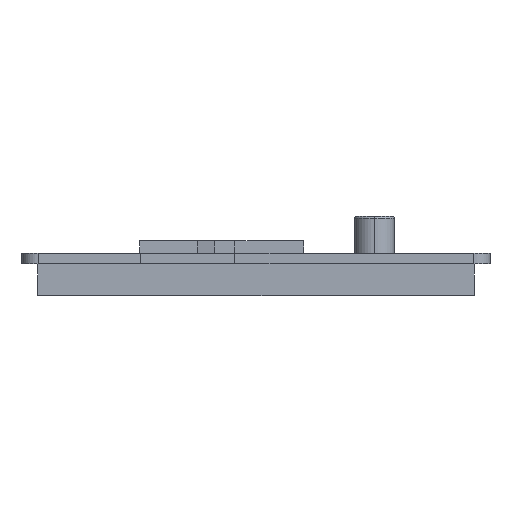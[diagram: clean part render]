
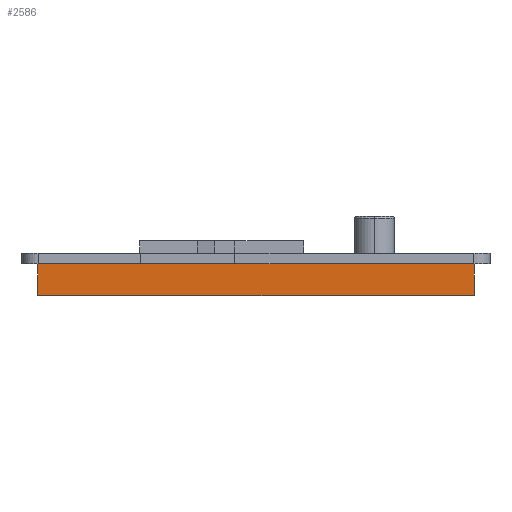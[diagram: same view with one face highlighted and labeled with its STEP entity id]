
A CAD part, left-side view. The second image highlights one B-rep face of the part: STEP entity #2586.
In plain terms, the highlighted planar face has unit normal (-1, 0, 0).
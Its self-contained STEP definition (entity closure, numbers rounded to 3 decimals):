
#541=DIRECTION('',(0.,1.,0.));
#542=VECTOR('',#541,10.018);
#543=CARTESIAN_POINT('',(83.402,267.858,-1.6));
#544=LINE('',#543,#542);
#557=DIRECTION('',(0.,1.,0.));
#558=VECTOR('',#557,16.51);
#559=CARTESIAN_POINT('',(83.402,282.956,-1.6));
#560=LINE('',#559,#558);
#573=DIRECTION('',(0.,1.,0.));
#574=VECTOR('',#573,16.51);
#575=CARTESIAN_POINT('',(83.402,304.546,-1.6));
#576=LINE('',#575,#574);
#589=DIRECTION('',(0.,1.,0.));
#590=VECTOR('',#589,10.022);
#591=CARTESIAN_POINT('',(83.402,326.136,-1.6));
#592=LINE('',#591,#590);
#805=DIRECTION('',(0.,0.,-1.));
#806=VECTOR('',#805,5.);
#807=CARTESIAN_POINT('',(83.402,267.858,-1.6));
#808=LINE('',#807,#806);
#817=DIRECTION('',(0.,0.,-1.));
#818=VECTOR('',#817,5.);
#819=CARTESIAN_POINT('',(83.402,336.158,-1.6));
#820=LINE('',#819,#818);
#821=DIRECTION('',(0.,1.,0.));
#822=VECTOR('',#821,68.3);
#823=CARTESIAN_POINT('',(83.402,267.858,-6.6));
#824=LINE('',#823,#822);
#897=DIRECTION('',(0.,1.,0.));
#898=VECTOR('',#897,5.08);
#899=CARTESIAN_POINT('',(83.402,321.056,-1.6));
#900=LINE('',#899,#898);
#901=DIRECTION('',(0.,1.,0.));
#902=VECTOR('',#901,5.08);
#903=CARTESIAN_POINT('',(83.402,299.466,-1.6));
#904=LINE('',#903,#902);
#905=DIRECTION('',(0.,1.,0.));
#906=VECTOR('',#905,5.08);
#907=CARTESIAN_POINT('',(83.402,277.876,-1.6));
#908=LINE('',#907,#906);
#1661=CARTESIAN_POINT('',(83.402,267.858,-6.6));
#1662=CARTESIAN_POINT('',(83.402,336.158,-6.6));
#1663=VERTEX_POINT('',#1661);
#1664=VERTEX_POINT('',#1662);
#1669=CARTESIAN_POINT('',(83.402,267.858,-1.6));
#1670=CARTESIAN_POINT('',(83.402,277.876,-1.6));
#1671=VERTEX_POINT('',#1669);
#1672=VERTEX_POINT('',#1670);
#1673=CARTESIAN_POINT('',(83.402,282.956,-1.6));
#1674=CARTESIAN_POINT('',(83.402,299.466,-1.6));
#1675=VERTEX_POINT('',#1673);
#1676=VERTEX_POINT('',#1674);
#1677=CARTESIAN_POINT('',(83.402,304.546,-1.6));
#1678=CARTESIAN_POINT('',(83.402,321.056,-1.6));
#1679=VERTEX_POINT('',#1677);
#1680=VERTEX_POINT('',#1678);
#1681=CARTESIAN_POINT('',(83.402,326.136,-1.6));
#1682=CARTESIAN_POINT('',(83.402,336.158,-1.6));
#1683=VERTEX_POINT('',#1681);
#1684=VERTEX_POINT('',#1682);
#2563=CARTESIAN_POINT('',(83.402,267.858,-1.6));
#2564=DIRECTION('',(-1.,0.,0.));
#2565=DIRECTION('',(0.,1.,0.));
#2566=AXIS2_PLACEMENT_3D('',#2563,#2564,#2565);
#2567=PLANE('',#2566);
#2568=ORIENTED_EDGE('',*,*,#2097,.F.);
#2570=ORIENTED_EDGE('',*,*,#2569,.T.);
#2572=ORIENTED_EDGE('',*,*,#2571,.T.);
#2574=ORIENTED_EDGE('',*,*,#2573,.F.);
#2575=ORIENTED_EDGE('',*,*,#2121,.F.);
#2577=ORIENTED_EDGE('',*,*,#2576,.F.);
#2578=ORIENTED_EDGE('',*,*,#2113,.F.);
#2580=ORIENTED_EDGE('',*,*,#2579,.F.);
#2581=ORIENTED_EDGE('',*,*,#2105,.F.);
#2583=ORIENTED_EDGE('',*,*,#2582,.F.);
#2584=EDGE_LOOP('',(#2568,#2570,#2572,#2574,#2575,#2577,#2578,#2580,#2581,
#2583));
#2585=FACE_OUTER_BOUND('',#2584,.F.);
#2097=EDGE_CURVE('',#1671,#1672,#544,.T.);
#2105=EDGE_CURVE('',#1675,#1676,#560,.T.);
#2113=EDGE_CURVE('',#1679,#1680,#576,.T.);
#2121=EDGE_CURVE('',#1683,#1684,#592,.T.);
#2569=EDGE_CURVE('',#1671,#1663,#808,.T.);
#2571=EDGE_CURVE('',#1663,#1664,#824,.T.);
#2573=EDGE_CURVE('',#1684,#1664,#820,.T.);
#2576=EDGE_CURVE('',#1680,#1683,#900,.T.);
#2579=EDGE_CURVE('',#1676,#1679,#904,.T.);
#2582=EDGE_CURVE('',#1672,#1675,#908,.T.);
#2586=ADVANCED_FACE('',(#2585),#2567,.T.);
